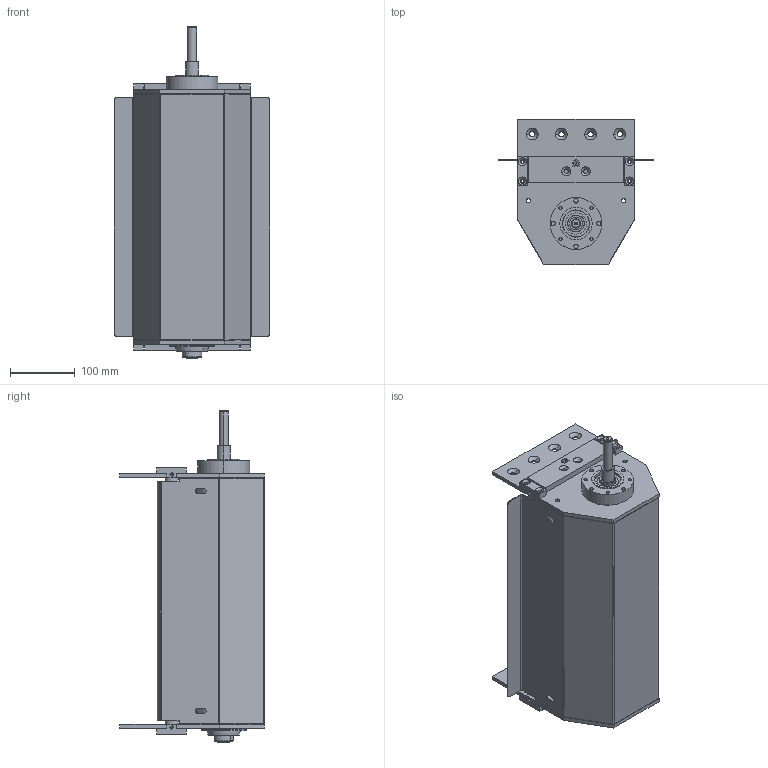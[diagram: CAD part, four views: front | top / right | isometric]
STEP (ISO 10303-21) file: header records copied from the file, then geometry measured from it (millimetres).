
FILE_DESCRIPTION (( 'STEP AP203' ), '1' );
FILE_NAME ('084.050.KCS.30.350.STEP', '2019-07-29T13:46:59', ( '' ), ( '' ), 'SwSTEP 2.0', 'SolidWorks 2018', '' );
FILE_SCHEMA (( 'CONFIG_CONTROL_DESIGN' ));
Length unit declared in the file: millimetre
Products named in the file (15): 084.812.003; 084.817.075; 084.802.003; 084.817.073; 084.050.KCS.30.350; CUSCINETTI A SFERE_6004-2RS; 084.810.003; 084.814.001-1; 084.802.009; 084.817.072_Default<A macchina>; 084.802.004-1; 084.802.021; 084.802.020; 084.817.074; 084.802.012_Solo centrale
Assembly tree (25 placements, depth 2):
  084.050.KCS.30.350
    084.817.072_Default<A macchina>
    084.817.075
    084.817.073  x2
    084.817.074  x2
    084.802.012_Solo centrale  x2
    084.802.009
    084.802.021
    084.814.001-1
    084.810.003  x2
    084.802.004-1  x4
    084.802.020
    084.812.003
    084.802.003  x2
    CUSCINETTI A SFERE_6004-2RS  x4
Bounding box: 240 x 223 x 512 mm (x, y, z)
Volume: 2598748.6 mm3; surface area: 1300370.5 mm2
Topology: 27 solids, 27 shells, 976 faces, 2424 edges, 1559 vertices
Faces by surface type: plane 418, cylinder 346, cone 134, torus 68, sphere 10
Entity records: 20575 total; most frequent: DIRECTION 3458, CARTESIAN_POINT 3262, ORIENTED_EDGE 3036, EDGE_CURVE 1518, AXIS2_PLACEMENT_3D 1316, VERTEX_POINT 978, LINE 826, VECTOR 826
